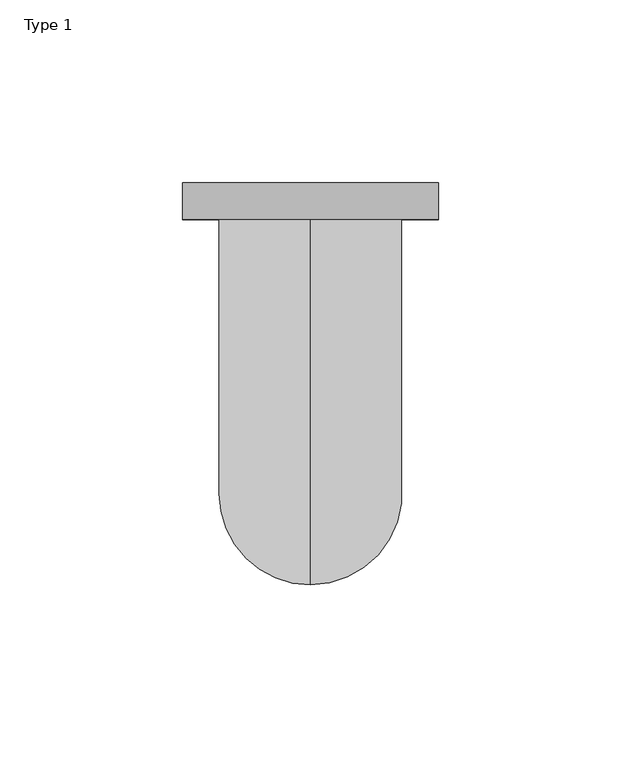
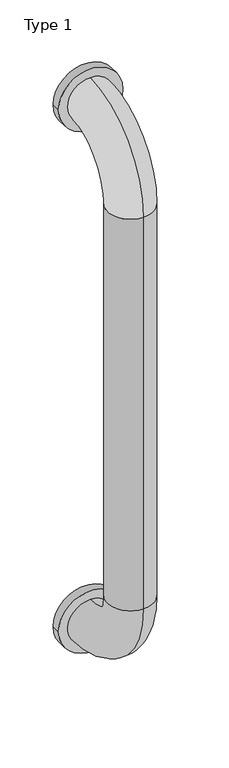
"""IFC4 building model written with IfcOpenShell, lengths in millimetres: proxy geometry, BIMHealth-Grab_Rail_Vertical-LOD2A-v1 : Type 1."""

from ifc_helpers import new_model, si_unit, point, frame, frame_2d, origin, place, context, project, spatial, circle_curve, ellipse_curve, trimmed, segment, composite_curve, outline, extrude, source, transform, mapped, element, save
from ifc_brep_helpers import plane_surface, cylinder_surface, revolved_surface, advanced_brep


def type_1_f4c963d5(model_context):
    return source(origin(), model_context, "Body", "SolidModel", [
        advanced_brep(
        [(125.0, -160.0, 1325.0), (125.0, -160.0, 875.0), (125.0, -110.0, 875.0), (125.0, -110.0, 1325.0), (125.0, -60.0, 1375.0), (125.0, -60.0, 1425.0), (125.0, -60.0, 825.0), (125.0, -60.0, 775.0)],
        [
            (0, 1),
            (1, 2, circle_curve(frame((125.0, -135.0, 875.0), z_axis=(0.0, 0.0, 1.0), x_axis=(0.0, -1.0, 0.0)), 25.0)),
            (2, 3),
            (3, 0, circle_curve(frame((125.0, -135.0, 1325.0), z_axis=(0.0, 0.0, -1.0), x_axis=(0.0, -1.0, 0.0)), 25.0)),
            (2, 1, circle_curve(frame((125.0, -135.0, 875.0), z_axis=(0.0, 0.0, 1.0), x_axis=(0.0, -1.0, 0.0)), 25.0)),
            (0, 3, circle_curve(frame((125.0, -135.0, 1325.0), z_axis=(0.0, 0.0, -1.0), x_axis=(0.0, -1.0, 0.0)), 25.0)),
            (4, 5, circle_curve(frame((125.0, -60.0, 1400.0), z_axis=(0.0, 1.0, 0.0), x_axis=(0.0, 0.0, 1.0)), 25.0)),
            (5, 4, circle_curve(frame((125.0, -60.0, 1400.0), z_axis=(0.0, 1.0, 0.0), x_axis=(0.0, 0.0, 1.0)), 25.0)),
            (3, 4, circle_curve(frame((125.0, -60.0, 1325.0), z_axis=(-1.0, 0.0, 0.0), x_axis=(0.0, 0.0, 1.0)), 50.0)),
            (5, 0, circle_curve(frame((125.0, -60.0, 1325.0), z_axis=(1.0, 0.0, 0.0), x_axis=(0.0, 0.0, 1.0)), 100.0)),
            (6, 7, circle_curve(frame((125.0, -60.0, 800.0), z_axis=(0.0, 1.0, 0.0), x_axis=(0.0, 0.0, -1.0)), 25.0)),
            (7, 6, circle_curve(frame((125.0, -60.0, 800.0), z_axis=(0.0, 1.0, 0.0), x_axis=(0.0, 0.0, -1.0)), 25.0)),
            (6, 2, circle_curve(frame((125.0, -60.0, 875.0), z_axis=(-1.0, 0.0, 0.0), x_axis=(0.0, -1.0, 0.0)), 50.0)),
            (1, 7, circle_curve(frame((125.0, -60.0, 875.0), z_axis=(1.0, 0.0, 0.0), x_axis=(0.0, -1.0, 0.0)), 100.0)),
        ],
        [
            cylinder_surface(frame((125.0, -135.0, 1325.0), z_axis=(0.0, 0.0, 1.0), x_axis=(0.0, -1.0, 0.0)), 25.0),
            plane_surface(frame((125.0, -60.0, 1400.0), z_axis=(0.0, 1.0, 0.0), x_axis=(1.0, 0.0, 0.0))),
            revolved_surface(trimmed(ellipse_curve(frame((125.0, -60.0, 1400.0), z_axis=(0.0, -1.0, 0.0), x_axis=(0.0, 0.0, 1.0)), 25.0, 25.0), [point((125.0, -60.0, 1375.0))], [point((125.0, -60.0, 1425.0))], True, "CARTESIAN"), (125.0, -60.0, 1325.0), (-1.0, 0.0, 0.0)),
            revolved_surface(trimmed(ellipse_curve(frame((125.0, -60.0, 1400.0), z_axis=(0.0, -1.0, 0.0), x_axis=(0.0, 0.0, 1.0)), 25.0, 25.0), [point((125.0, -60.0, 1425.0))], [point((125.0, -60.0, 1375.0))], True, "CARTESIAN"), (125.0, -60.0, 1325.0), (-1.0, 0.0, 0.0)),
            plane_surface(frame((125.0, -60.0, 800.0), z_axis=(0.0, 1.0, 0.0), x_axis=(1.0, 0.0, 0.0))),
            revolved_surface(trimmed(ellipse_curve(frame((125.0, -135.0, 875.0), z_axis=(0.0, 0.0, -1.0), x_axis=(0.0, -1.0, 0.0)), 25.0, 25.0), [point((125.0, -110.0, 875.0))], [point((125.0, -160.0, 875.0))], True, "CARTESIAN"), (125.0, -60.0, 875.0), (-1.0, 0.0, 0.0)),
            revolved_surface(trimmed(ellipse_curve(frame((125.0, -135.0, 875.0), z_axis=(0.0, 0.0, -1.0), x_axis=(0.0, -1.0, 0.0)), 25.0, 25.0), [point((125.0, -160.0, 875.0))], [point((125.0, -110.0, 875.0))], True, "CARTESIAN"), (125.0, -60.0, 875.0), (-1.0, 0.0, 0.0)),
        ],
        [
            (0, [[1, 2, 3, 4]]),
            (0, [[-3, 5, -1, 6]]),
            (1, [[7, 8]]),
            (2, [[-4, 9, -8, 10]]),
            (3, [[-6, -10, -7, -9]]),
            (4, [[11, 12]]),
            (5, [[-11, 13, -2, 14]]),
            (6, [[-12, -14, -5, -13]]),
        ],
    ),
        extrude(outline(composite_curve([segment(trimmed(circle_curve(frame_2d((800.0, 125.0)), 35.0), [point((800.0, 160.0))], [point((800.0, 90.0))], False, "CARTESIAN"), True, "CONTINUOUS"), segment(trimmed(circle_curve(frame_2d((800.0, 125.0)), 35.0), [point((800.0, 90.0))], [point((800.0, 160.0))], False, "CARTESIAN"), True, "CONTINUOUS")], self_intersect=False)), frame((0.0, -60.0, 0.0), z_axis=(0.0, 1.0, 0.0), x_axis=(0.0, 0.0, 1.0)), (0.0, 0.0, 1.0), 10.0),
        extrude(outline(composite_curve([segment(trimmed(circle_curve(frame_2d((1400.0, 125.0)), 35.0), [point((1400.0, 160.0))], [point((1400.0, 90.0))], False, "CARTESIAN"), True, "CONTINUOUS"), segment(trimmed(circle_curve(frame_2d((1400.0, 125.0)), 35.0), [point((1400.0, 90.0))], [point((1400.0, 160.0))], False, "CARTESIAN"), True, "CONTINUOUS")], self_intersect=False)), frame((0.0, -60.0, 0.0), z_axis=(0.0, 1.0, 0.0), x_axis=(0.0, 0.0, 1.0)), (0.0, 0.0, 1.0), 10.0),
    ])


if __name__ == "__main__":
    model = new_model("IFC4")
    model_context = context("Model", 3, world=origin())
    ifc_project = project(units=[si_unit("LENGTHUNIT", "METRE", prefix="MILLI")], contexts=[model_context])
    site = spatial("IfcSite", under=ifc_project)
    building = spatial("IfcBuilding", under=site)
    placement = place(None, origin())
    type_1_shape = type_1_f4c963d5(model_context)
    element("IfcBuildingElementProxy", 1, Name="BIMHealth-Grab_Rail_Vertical-LOD2A-v1 : Type 1", ObjectType="BIMHealth-Grab_Rail_Vertical-LOD2A-v1 : Type 1", at=placement, inside=building, context=model_context, shape_type="MappedRepresentation", body=[
        mapped(type_1_shape, transform((0.0, 0.0, 0.0), x_axis=(1.0, 0.0, 0.0), y_axis=(0.0, 1.0, 0.0), z_axis=(0.0, 0.0, 1.0))),
    ])
    save(model, "model.ifc")
